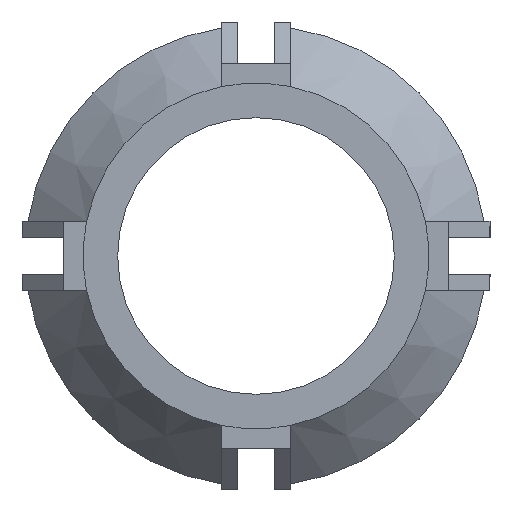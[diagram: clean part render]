
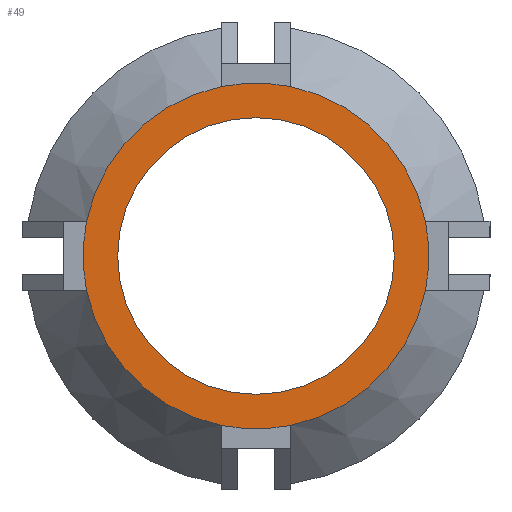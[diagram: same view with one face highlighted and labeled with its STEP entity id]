
A CAD part, front view. The second image highlights one B-rep face of the part: STEP entity #49.
In plain terms, the highlighted planar face has unit normal (0, -1, 0).
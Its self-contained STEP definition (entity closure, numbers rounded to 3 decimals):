
#10 = ORIENTED_EDGE ( 'NONE', *, *, #4087, .T. ) ;
#33 = EDGE_CURVE ( 'NONE', #2329, #1534, #2335, .T. ) ;
#46 = DIRECTION ( 'NONE',  ( 0., -1., 0. ) ) ;
#49 = ADVANCED_FACE ( 'NONE', ( #2882, #881 ), #1189, .F. ) ;
#71 = EDGE_CURVE ( 'NONE', #601, #3855, #3115, .T. ) ;
#80 = CIRCLE ( 'NONE', #145, 3.75 ) ;
#112 = VERTEX_POINT ( 'NONE', #971 ) ;
#128 = ORIENTED_EDGE ( 'NONE', *, *, #1400, .T. ) ;
#145 = AXIS2_PLACEMENT_3D ( 'NONE', #458, #1080, #4160 ) ;
#245 = VERTEX_POINT ( 'NONE', #3720 ) ;
#357 = AXIS2_PLACEMENT_3D ( 'NONE', #2862, #901, #3215 ) ;
#369 = DIRECTION ( 'NONE',  ( 0., -1., 0. ) ) ;
#395 = VERTEX_POINT ( 'NONE', #1875 ) ;
#404 = CARTESIAN_POINT ( 'NONE',  ( 0., -10., 0. ) ) ;
#438 = AXIS2_PLACEMENT_3D ( 'NONE', #3493, #3808, #3409 ) ;
#458 = CARTESIAN_POINT ( 'NONE',  ( 0., -10., 0. ) ) ;
#530 = CARTESIAN_POINT ( 'NONE',  ( 0., -10., -3. ) ) ;
#578 = VERTEX_POINT ( 'NONE', #1513 ) ;
#601 = VERTEX_POINT ( 'NONE', #3220 ) ;
#627 = DIRECTION ( 'NONE',  ( 0., -1., 0. ) ) ;
#635 = VERTEX_POINT ( 'NONE', #2161 ) ;
#647 = ORIENTED_EDGE ( 'NONE', *, *, #2082, .T. ) ;
#655 = AXIS2_PLACEMENT_3D ( 'NONE', #2415, #975, #2091 ) ;
#858 = CARTESIAN_POINT ( 'NONE',  ( 0., -10., 0. ) ) ;
#880 = CARTESIAN_POINT ( 'NONE',  ( 0.75, -10., -3.674 ) ) ;
#881 = FACE_OUTER_BOUND ( 'NONE', #3576, .T. ) ;
#901 = DIRECTION ( 'NONE',  ( 0., -1., 0. ) ) ;
#971 = CARTESIAN_POINT ( 'NONE',  ( -0.75, -10., 3.674 ) ) ;
#975 = DIRECTION ( 'NONE',  ( 0., -1., 0. ) ) ;
#1051 = CARTESIAN_POINT ( 'NONE',  ( 0., -10., 0. ) ) ;
#1055 = CARTESIAN_POINT ( 'NONE',  ( 3.674, -10., -0.75 ) ) ;
#1080 = DIRECTION ( 'NONE',  ( 0., -1., 0. ) ) ;
#1154 = ORIENTED_EDGE ( 'NONE', *, *, #71, .F. ) ;
#1189 = PLANE ( 'NONE',  #1561 ) ;
#1281 = EDGE_CURVE ( 'NONE', #1935, #112, #2488, .T. ) ;
#1336 = ORIENTED_EDGE ( 'NONE', *, *, #2637, .T. ) ;
#1386 = DIRECTION ( 'NONE',  ( 0., 0., 1. ) ) ;
#1400 = EDGE_CURVE ( 'NONE', #112, #395, #1577, .T. ) ;
#1503 = AXIS2_PLACEMENT_3D ( 'NONE', #1051, #46, #1386 ) ;
#1510 = ORIENTED_EDGE ( 'NONE', *, *, #3755, .F. ) ;
#1513 = CARTESIAN_POINT ( 'NONE',  ( 3.674, -10., 0.75 ) ) ;
#1534 = VERTEX_POINT ( 'NONE', #1055 ) ;
#1561 = AXIS2_PLACEMENT_3D ( 'NONE', #2594, #4229, #1902 ) ;
#1577 = CIRCLE ( 'NONE', #4059, 3.75 ) ;
#1679 = DIRECTION ( 'NONE',  ( 1., 0., 0. ) ) ;
#1875 = CARTESIAN_POINT ( 'NONE',  ( -3.674, -10., 0.75 ) ) ;
#1902 = DIRECTION ( 'NONE',  ( 0., 0., 1. ) ) ;
#1935 = VERTEX_POINT ( 'NONE', #2903 ) ;
#1995 = AXIS2_PLACEMENT_3D ( 'NONE', #2602, #627, #1679 ) ;
#2036 = DIRECTION ( 'NONE',  ( -1., 0., 0. ) ) ;
#2053 = CARTESIAN_POINT ( 'NONE',  ( 0., -10., 0. ) ) ;
#2082 = EDGE_CURVE ( 'NONE', #578, #1935, #3274, .T. ) ;
#2091 = DIRECTION ( 'NONE',  ( 0., 0., 1. ) ) ;
#2161 = CARTESIAN_POINT ( 'NONE',  ( -3.674, -10., -0.75 ) ) ;
#2217 = DIRECTION ( 'NONE',  ( 0., -1., 0. ) ) ;
#2236 = DIRECTION ( 'NONE',  ( 0., 0., 1. ) ) ;
#2329 = VERTEX_POINT ( 'NONE', #880 ) ;
#2335 = CIRCLE ( 'NONE', #357, 3.75 ) ;
#2371 = ORIENTED_EDGE ( 'NONE', *, *, #4095, .T. ) ;
#2415 = CARTESIAN_POINT ( 'NONE',  ( 0., -10., 0. ) ) ;
#2417 = AXIS2_PLACEMENT_3D ( 'NONE', #2053, #369, #2036 ) ;
#2488 = CIRCLE ( 'NONE', #1995, 3.75 ) ;
#2594 = CARTESIAN_POINT ( 'NONE',  ( 0., -10., 0. ) ) ;
#2602 = CARTESIAN_POINT ( 'NONE',  ( 0., -10., 0. ) ) ;
#2637 = EDGE_CURVE ( 'NONE', #635, #245, #80, .T. ) ;
#2743 = DIRECTION ( 'NONE',  ( 0., -1., 0. ) ) ;
#2750 = ORIENTED_EDGE ( 'NONE', *, *, #1281, .T. ) ;
#2862 = CARTESIAN_POINT ( 'NONE',  ( 0., -10., 0. ) ) ;
#2882 = FACE_BOUND ( 'NONE', #3926, .T. ) ;
#2903 = CARTESIAN_POINT ( 'NONE',  ( 0.75, -10., 3.674 ) ) ;
#2934 = EDGE_CURVE ( 'NONE', #245, #2329, #3690, .T. ) ;
#2986 = ORIENTED_EDGE ( 'NONE', *, *, #33, .T. ) ;
#3048 = DIRECTION ( 'NONE',  ( 0., -1., 0. ) ) ;
#3115 = CIRCLE ( 'NONE', #3392, 3. ) ;
#3215 = DIRECTION ( 'NONE',  ( 0., 0., 1. ) ) ;
#3220 = CARTESIAN_POINT ( 'NONE',  ( 0., -10., 3. ) ) ;
#3274 = CIRCLE ( 'NONE', #655, 3.75 ) ;
#3392 = AXIS2_PLACEMENT_3D ( 'NONE', #858, #2217, #2236 ) ;
#3409 = DIRECTION ( 'NONE',  ( 0., 0., 1. ) ) ;
#3460 = DIRECTION ( 'NONE',  ( 0., 0., -1. ) ) ;
#3480 = CIRCLE ( 'NONE', #3701, 3.75 ) ;
#3493 = CARTESIAN_POINT ( 'NONE',  ( 0., -10., 0. ) ) ;
#3528 = ORIENTED_EDGE ( 'NONE', *, *, #2934, .T. ) ;
#3543 = CIRCLE ( 'NONE', #438, 3. ) ;
#3576 = EDGE_LOOP ( 'NONE', ( #10, #1336, #3528, #2986, #2371, #647, #2750, #128 ) ) ;
#3690 = CIRCLE ( 'NONE', #2417, 3.75 ) ;
#3701 = AXIS2_PLACEMENT_3D ( 'NONE', #3802, #2743, #3460 ) ;
#3720 = CARTESIAN_POINT ( 'NONE',  ( -0.75, -10., -3.674 ) ) ;
#3755 = EDGE_CURVE ( 'NONE', #3855, #601, #3543, .T. ) ;
#3802 = CARTESIAN_POINT ( 'NONE',  ( 0., -10., 0. ) ) ;
#3808 = DIRECTION ( 'NONE',  ( 0., -1., 0. ) ) ;
#3840 = CIRCLE ( 'NONE', #1503, 3.75 ) ;
#3855 = VERTEX_POINT ( 'NONE', #530 ) ;
#3926 = EDGE_LOOP ( 'NONE', ( #1154, #1510 ) ) ;
#4059 = AXIS2_PLACEMENT_3D ( 'NONE', #404, #3048, #4114 ) ;
#4087 = EDGE_CURVE ( 'NONE', #395, #635, #3840, .T. ) ;
#4095 = EDGE_CURVE ( 'NONE', #1534, #578, #3480, .T. ) ;
#4114 = DIRECTION ( 'NONE',  ( 0., 0., 1. ) ) ;
#4160 = DIRECTION ( 'NONE',  ( 0., 0., 1. ) ) ;
#4229 = DIRECTION ( 'NONE',  ( 0., 1., 0. ) ) ;
